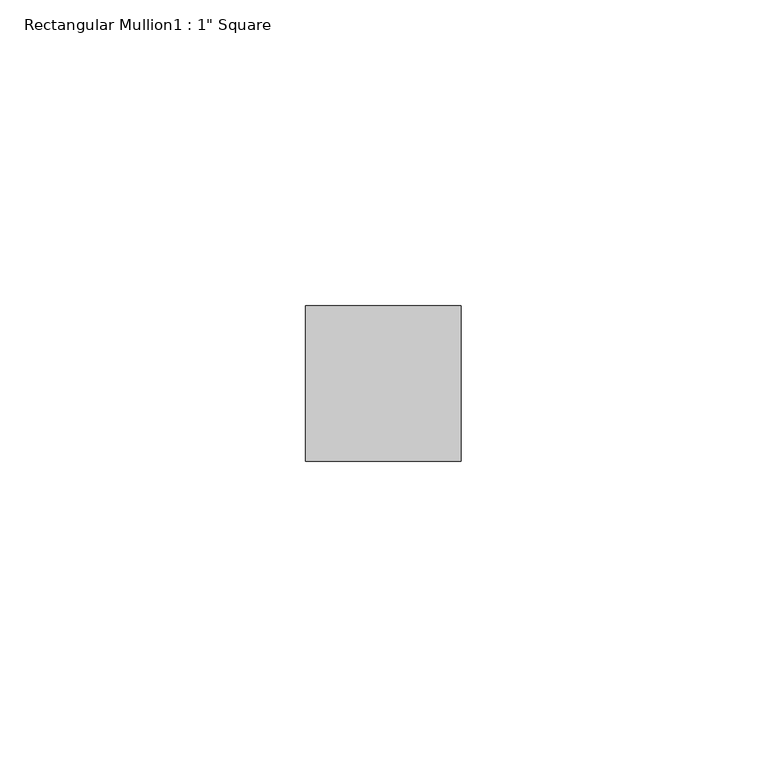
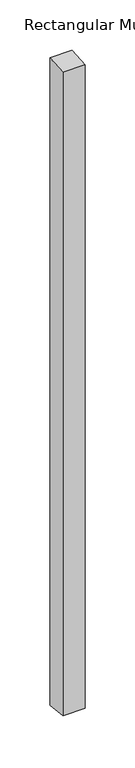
"""IFC4 building model written with IfcOpenShell, lengths in millimetres: member geometry."""

from ifc_helpers import new_model, si_unit, frame, origin, place, context, project, spatial, polyline, outline, extrude, source, transform, mapped, element, save


def member_8f453707(model_context):
    return source(origin(), model_context, "Body", "SweptSolid", [
        extrude(outline(polyline([(-44.45, -4.2341647), (-19.05, -1.814642), (-19.05, -788.2125933), (-44.45, -785.7930706), (-44.45, -4.2341647)])), frame((-25.4, 0.0, 0.0), z_axis=(1.0, 0.0, 0.0), x_axis=(0.0, 1.0, 0.0)), (0.0, 0.0, 1.0), 25.4),
    ])


if __name__ == "__main__":
    model = new_model("IFC4")
    model_context = context("Model", 3, world=origin())
    ifc_project = project(units=[si_unit("LENGTHUNIT", "METRE", prefix="MILLI")], contexts=[model_context])
    site = spatial("IfcSite", under=ifc_project)
    building = spatial("IfcBuilding", under=site)
    placement = place(None, origin())
    member_shape = member_8f453707(model_context)
    element("IfcMember", 1, ObjectType="Rectangular Mullion1 : 1\" Square", at=placement, inside=building, context=model_context, shape_type="MappedRepresentation", body=[
        mapped(member_shape, transform((0.0, 0.0, 0.0), x_axis=(1.0, 0.0, 0.0), y_axis=(0.0, 1.0, 0.0), z_axis=(0.0, 0.0, 1.0))),
    ])
    save(model, "model.ifc")
